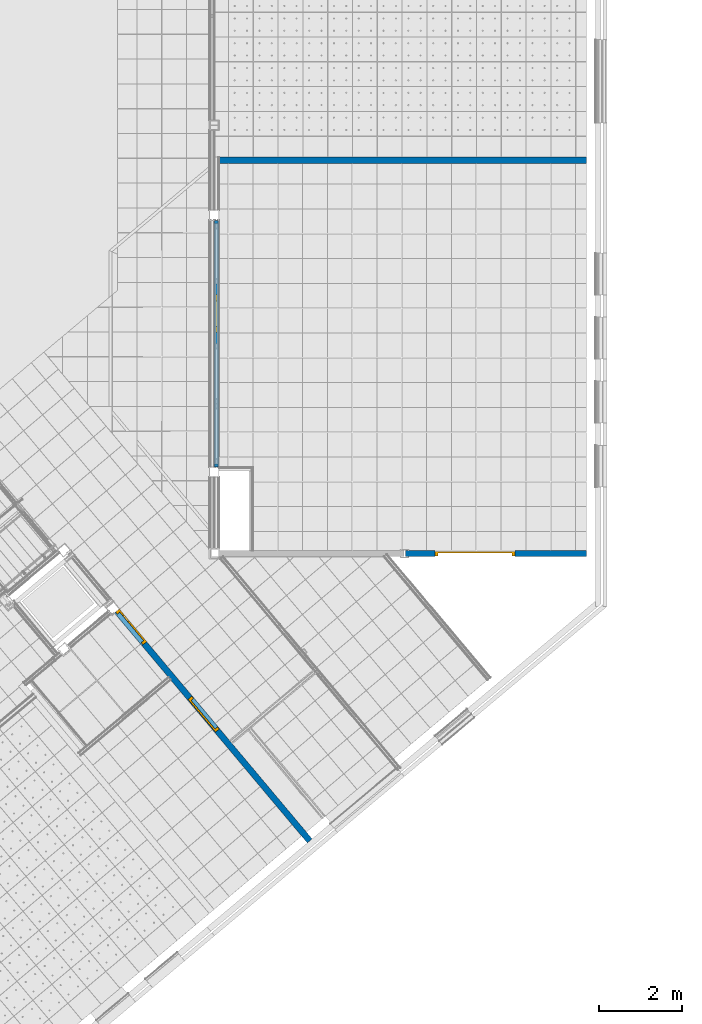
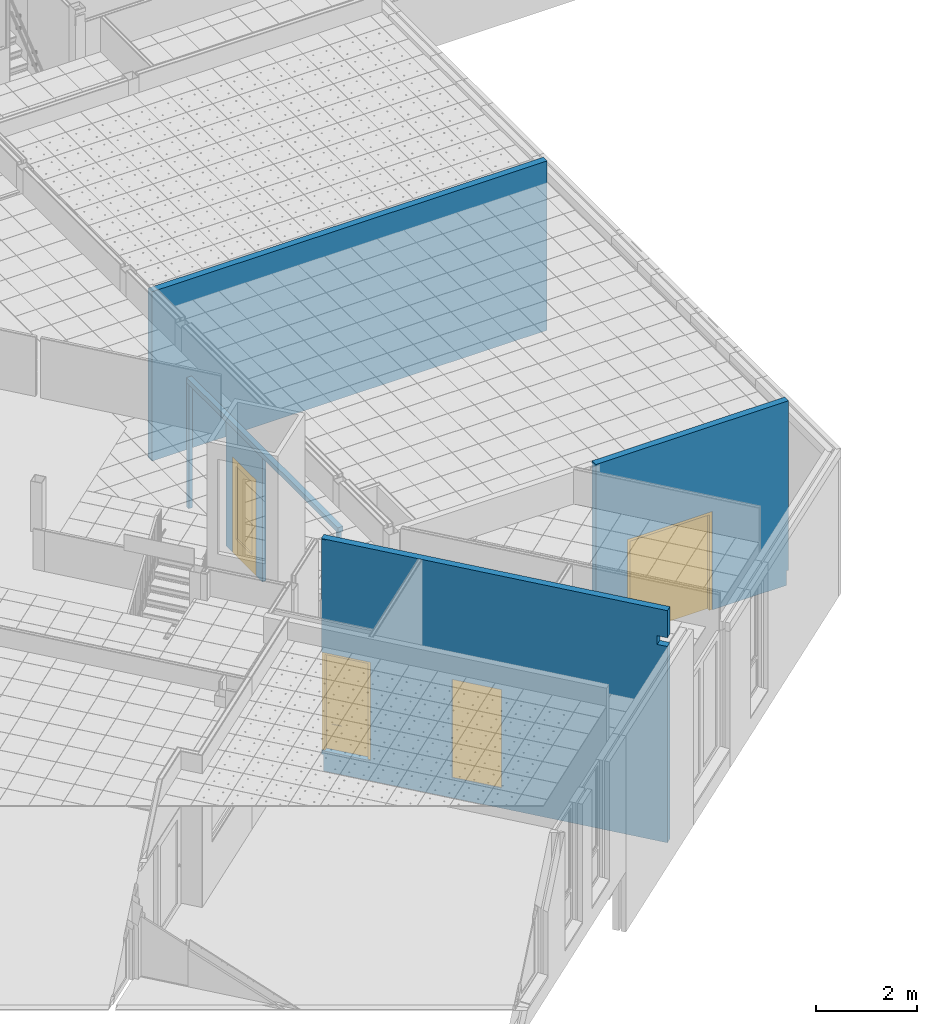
# One storey, part 43 of 338: 7 walls, 4 doors, 4 openings.
"""IFC2X3 building model written with IfcOpenShell, lengths in millimetres."""

from ifc_helpers import new_model, entity, si_unit, converted_unit, derived_unit, money_unit, direction, frame, origin_with_axes, place, context, subcontext, project, spatial, open_shell, faceted_brep, surface_model, material, type_object, element, fill, save


model = new_model("IFC2X3")

# Units and contexts
model_context = context("Model", 3, precision=0.01, world=origin_with_axes(), true_north=direction((0.0, 1.0)))
plan_context = context("Plan", 3, precision=0.01, world=origin_with_axes(), true_north=direction((0.0, 1.0)))
body_context = subcontext(model_context, "Body", "Model", "MODEL_VIEW")
ifc_project = project(units=[si_unit("LENGTHUNIT", "METRE", prefix="MILLI"), si_unit("AREAUNIT", "SQUARE_METRE"), si_unit("VOLUMEUNIT", "CUBIC_METRE"), converted_unit("PLANEANGLEUNIT", "DEGREE", entity("IfcPlaneAngleMeasure", 0.0174532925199), si_unit("PLANEANGLEUNIT", "RADIAN"), dimensions=[0, 0, 0, 0, 0, 0, 0]), money_unit("EUR"), converted_unit("TIMEUNIT", "Year", entity("IfcTimeMeasure", 31556926.0), si_unit("TIMEUNIT", "SECOND"), dimensions=[0, 0, 1, 0, 0, 0, 0]), si_unit("MASSUNIT", "GRAM", prefix="KILO"), si_unit("THERMODYNAMICTEMPERATUREUNIT", "DEGREE_CELSIUS"), si_unit("LUMINOUSINTENSITYUNIT", "LUMEN"), si_unit("ENERGYUNIT", "JOULE", prefix="MEGA"), derived_unit("THERMALCONDUCTANCEUNIT", [(si_unit("POWERUNIT", "WATT"), 1), (si_unit("LENGTHUNIT", "METRE"), -1), (si_unit("THERMODYNAMICTEMPERATUREUNIT", "KELVIN"), -1)]), derived_unit("SPECIFICHEATCAPACITYUNIT", [(si_unit("ENERGYUNIT", "JOULE"), 1), (si_unit("MASSUNIT", "GRAM", prefix="KILO"), -1), (si_unit("THERMODYNAMICTEMPERATUREUNIT", "KELVIN"), -1)]), derived_unit("MASSDENSITYUNIT", [(si_unit("MASSUNIT", "GRAM", prefix="KILO"), 1), (si_unit("VOLUMEUNIT", "CUBIC_METRE"), -1)])], contexts=[model_context, plan_context])

# Site, building, storey
site_placement = place(None, origin_with_axes())
site = spatial("IfcSite", under=ifc_project, at=site_placement, Name="Fortuinstraat Woensdrecht", CompositionType="ELEMENT")
building_placement = place(site_placement, origin_with_axes())
building = spatial("IfcBuilding", under=site, at=building_placement, Name="IKC Fortuna", CompositionType="ELEMENT")
storey_placement = place(building_placement, origin_with_axes())
storey = spatial("IfcBuildingStorey", under=building, at=storey_placement, Name="00 begane grond", CompositionType="ELEMENT", Elevation=0.0)

# Wall, openings, doors
ifc_material_1 = material(Name="Steen - Kalkzandsteen C")
wall_type_1 = type_object("IfcWallType", Name="Steen - Kalkzandsteen C 150", PredefinedType="NOTDEFINED")
wall_1_placement = place(storey_placement, frame((27979.6079647, -5147.2923168, -485.0), z_axis=(0.0, 0.0, 1.0), x_axis=(-0.642787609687, 0.766044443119, 0.0)))
wall_1 = element("IfcWall", 1, at=wall_1_placement, inside=storey, type_object=wall_type_1, material=ifc_material_1, Name="22_Wand_KZST", context=body_context, shape_type="Brep", body=[
    faceted_brep([(4512.49185749, 150.0, 2852.0), (4512.49185749, 0.0, 2852.0), (3478.49185749, 0.0, 2852.0), (3478.49185749, 150.0, 2852.0), (4512.49185749, 0.0, 485.0), (4512.49185749, 150.0, 485.0), (214.0, 0.0, 4722.5), (0.0, 0.0, 4722.5), (0.0, 0.0, 0.0), (7214.0, 0.0, 0.0), (7214.0, 0.0, 395.0), (7259.0, 0.0, 395.0), (7258.9999956, 0.000128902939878, 485.0), (6224.9999956, 0.0, 485.0), (6224.9999956, 0.0, 2852.0), (7258.9999956, 0.00351905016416, 2852.0), (7259.0, 0.00741120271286, 5569.5), (7164.0170648, 0.00741120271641, 5569.5), (7164.0170648, 0.00741120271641, 5584.5), (7259.0, 0.00741120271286, 5584.5), (7259.0, 0.0, 5585.0), (0.0, 0.0, 5585.0), (0.0, 0.0, 4932.5), (214.0, 0.0, 4932.5), (3478.49185749, 0.0, 485.0), (3478.49185749, 150.0, 485.0), (7259.0, 150.0, 5584.5), (7164.0170648, 150.0, 5584.5), (7164.0170648, 150.0, 5569.5), (7259.0, 150.0, 5569.5), (7258.9999956, 150.0, 2852.0), (6224.9999956, 150.0, 2852.0), (6224.9999956, 150.0, 485.0), (7258.9999956, 150.0, 485.0), (7259.0, 150.0, 395.0), (7214.0, 150.0, 395.0), (7214.0, 150.0, 0.0), (0.0, 150.0, 0.0), (0.0, 150.0, 4722.5), (214.0, 150.0, 4722.5), (214.0, 150.0, 4932.5), (0.0, 150.0, 4932.5), (0.0, 150.0, 5585.0), (7259.0, 150.0, 5585.0)], [[[0, 1, 2, 3]], [[4, 1, 0, 5]], [[6, 7, 8, 9, 10, 11, 12, 13, 14, 15, 16, 17, 18, 19, 20, 21, 22, 23], [4, 24, 2, 1]], [[3, 2, 24, 25]], [[26, 27, 28, 29, 30, 31, 32, 33, 34, 35, 36, 37, 38, 39, 40, 41, 42, 43], [0, 3, 25, 5]], [[24, 4, 5, 25]], [[38, 7, 6, 39]], [[7, 38, 37, 8]], [[9, 8, 37, 36]], [[9, 36, 35, 10]], [[10, 35, 34, 11]], [[11, 34, 33, 12]], [[33, 32, 13, 12]], [[32, 31, 14, 13]], [[31, 30, 15, 14]], [[29, 16, 15, 30]], [[29, 28, 17, 16]], [[28, 27, 18, 17]], [[27, 26, 19, 18]], [[43, 20, 19, 26]], [[42, 21, 20, 43]], [[41, 22, 21, 42]], [[23, 22, 41, 40]], [[6, 23, 40, 39]]]),
])
opening_1_placement = place(wall_1_placement, frame((6741.9999956, 0.0, 485.0), z_axis=(0.0, 0.0, 1.0), x_axis=(1.0, 0.0, 0.0)))
opening_1 = element("IfcOpeningElement", 2, at=opening_1_placement, cuts=wall_1, Name="32_Deur_h.01d", context=body_context, shape_type="Brep", body=[
    faceted_brep([(-517.0, 150.0, 2367.0), (-517.0, 150.0, 0.0), (-517.0, -300.0, 0.0), (-517.0, -300.0, 2367.0), (517.0, 150.0, 2367.0), (517.0, 150.0, 0.0), (517.0, -300.0, 0.0), (517.0, -300.0, 2367.0)], [[[0, 1, 2, 3]], [[0, 4, 5, 1]], [[1, 5, 6, 2]], [[3, 2, 6, 7]], [[4, 0, 3, 7]], [[5, 4, 7, 6]]]),
])
opening_2_placement = place(wall_1_placement, frame((3995.49185749, 0.0, 485.0), z_axis=(0.0, 0.0, 1.0), x_axis=(1.0, 0.0, 0.0)))
opening_2 = element("IfcOpeningElement", 3, at=opening_2_placement, cuts=wall_1, Name="32_Deur_h.01a", context=body_context, shape_type="Brep", body=[
    faceted_brep([(517.0, -150.0, 2367.0), (517.0, -150.0, 0.0), (517.0, 129.0, 0.0), (517.0, 129.0, 2367.0), (-517.0, -150.0, 2367.0), (-517.0, -150.0, 0.0), (-517.0, 129.0, 0.0), (-517.0, 129.0, 2367.0)], [[[0, 1, 2, 3]], [[0, 4, 5, 1]], [[1, 5, 6, 2]], [[3, 2, 6, 7]], [[4, 0, 3, 7]], [[5, 4, 7, 6]]]),
    faceted_brep([(517.0, 300.0, 0.0), (517.0, 300.0, 2367.0), (517.0, 129.0, 2367.0), (517.0, 129.0, 0.0), (-517.0, 300.0, 0.0), (-517.0, 300.0, 2367.0), (-517.0, 129.0, 2367.0), (-517.0, 129.0, 0.0)], [[[0, 1, 2, 3]], [[0, 4, 5, 1]], [[1, 5, 6, 2]], [[3, 2, 6, 7]], [[4, 0, 3, 7]], [[5, 4, 7, 6]]]),
])
door_style_1 = type_object("IfcDoorStyle", Name="D1 25", ConstructionType="NOTDEFINED", OperationType="SINGLE_SWING_RIGHT", ParameterTakesPrecedence=False, Sizeable=False)
door_1_placement = place(opening_1_placement, frame((517.0, 0.0, 0.0), z_axis=(0.0, 0.0, 1.0), x_axis=(-1.0, 0.0, 0.0)))
door_1 = element("IfcDoor", 4, at=door_1_placement, inside=storey, type_object=door_style_1, Name="32_Deur_h.01d", ObjectType="DOOR", OverallHeight=2367.0, OverallWidth=1034.0, context=body_context, shape_type="SurfaceModel", body=[
    faceted_brep([(67.0, -40.0, 0.0), (67.0, -40.0, 2300.0), (67.0, -114.0, 2300.0), (67.0, -114.0, 0.0), (50.0, -40.0, 2300.0), (50.0, -40.0, 0.0), (50.0, 0.0, 2300.0), (0.0, 0.0, 2300.0), (0.0, -114.0, 2300.0), (0.0, -114.0, 0.0), (0.0, 0.0, 0.0), (50.0, 0.0, 0.0)], [[[0, 1, 2, 3]], [[4, 1, 0, 5]], [[4, 6, 7, 8, 2, 1]], [[3, 2, 8, 9]], [[5, 0, 3, 9, 10, 11]], [[6, 4, 5, 11]], [[6, 11, 10, 7]], [[10, 9, 8, 7]]]),
    faceted_brep([(984.0, -40.0, 2300.0), (967.0, -40.0, 2300.0), (967.0, -114.0, 2300.0), (1034.0, -114.0, 2300.0), (1034.0, 0.0, 2300.0), (984.0, 0.0, 2300.0), (984.0, -40.0, 0.0), (967.0, -40.0, 0.0), (967.0, -114.0, 0.0), (1034.0, -114.0, 0.0), (1034.0, 0.0, 0.0), (984.0, 0.0, 0.0)], [[[0, 1, 2, 3, 4, 5]], [[1, 0, 6, 7]], [[1, 7, 8, 2]], [[3, 2, 8, 9]], [[4, 3, 9, 10]], [[11, 5, 4, 10]], [[0, 5, 11, 6]], [[6, 11, 10, 9, 8, 7]]]),
    faceted_brep([(50.0, 0.0, 2317.0), (50.0, 0.0, 2300.0), (0.0, 0.0, 2300.0), (0.0, 0.0, 2367.0), (1034.0, 0.0, 2367.0), (1034.0, 0.0, 2300.0), (984.0, 0.0, 2300.0), (984.0, 0.0, 2317.0), (50.0, -40.0, 2317.0), (50.0, -40.0, 2300.0), (67.0, -40.0, 2300.0), (67.0, -114.0, 2300.0), (0.0, -114.0, 2300.0), (0.0, -114.0, 2367.0), (1034.0, -114.0, 2367.0), (1034.0, -114.0, 2300.0), (984.0, -40.0, 2300.0), (967.0, -114.0, 2300.0), (967.0, -40.0, 2300.0), (984.0, -40.0, 2317.0)], [[[0, 1, 2, 3, 4, 5, 6, 7]], [[1, 0, 8, 9]], [[9, 10, 11, 12, 2, 1]], [[2, 12, 13, 3]], [[3, 13, 14, 4]], [[4, 14, 15, 5]], [[16, 6, 5, 15, 17, 18]], [[7, 6, 16, 19]], [[0, 7, 19, 8]], [[16, 18, 10, 9, 8, 19]], [[10, 18, 17, 11]], [[17, 15, 14, 13, 12, 11]]]),
    faceted_brep([(984.0, 0.0, 600.0), (984.0, -40.0, 600.0), (380.0, -40.0, 600.0), (380.0, 0.0, 600.0), (984.0, 0.0, 2187.0), (984.0, -40.0, 2187.0), (380.0, -40.0, 2187.0), (380.0, 0.0, 2187.0)], [[[0, 1, 2, 3]], [[4, 5, 1, 0]], [[1, 5, 6, 2]], [[3, 2, 6, 7]], [[0, 3, 7, 4]], [[7, 6, 5, 4]]]),
    faceted_brep([(50.0, 0.0, 600.0), (50.0, -40.0, 600.0), (50.0, -40.0, 2187.0), (50.0, 0.0, 2187.0), (180.0, 0.0, 600.0), (180.0, -40.0, 600.0), (180.0, -40.0, 2187.0), (180.0, 0.0, 2187.0)], [[[0, 1, 2, 3]], [[4, 5, 1, 0]], [[1, 5, 6, 2]], [[3, 2, 6, 7]], [[0, 3, 7, 4]], [[7, 6, 5, 4]]]),
    faceted_brep([(984.0, 0.0, 0.0), (984.0, -40.0, 0.0), (50.0, -40.0, 0.0), (50.0, 0.0, 0.0), (984.0, 0.0, 600.0), (984.0, -40.0, 600.0), (380.0, -40.0, 600.0), (180.0, -40.0, 600.0), (50.0, -40.0, 600.0), (50.0, 0.0, 600.0), (180.0, 0.0, 600.0), (380.0, 0.0, 600.0)], [[[0, 1, 2, 3]], [[4, 5, 1, 0]], [[1, 5, 6, 7, 8, 2]], [[3, 2, 8, 9]], [[0, 3, 9, 10, 11, 4]], [[11, 6, 5, 4]], [[10, 7, 6, 11]], [[9, 8, 7, 10]]]),
    faceted_brep([(984.0, 0.0, 2317.0), (984.0, -40.0, 2317.0), (984.0, -40.0, 2187.0), (984.0, 0.0, 2187.0), (50.0, 0.0, 2317.0), (50.0, -40.0, 2317.0), (50.0, -40.0, 2187.0), (180.0, -40.0, 2187.0), (380.0, -40.0, 2187.0), (380.0, 0.0, 2187.0), (180.0, 0.0, 2187.0), (50.0, 0.0, 2187.0)], [[[0, 1, 2, 3]], [[4, 5, 1, 0]], [[1, 5, 6, 7, 8, 2]], [[3, 2, 8, 9]], [[0, 3, 9, 10, 11, 4]], [[11, 6, 5, 4]], [[10, 7, 6, 11]], [[9, 8, 7, 10]]]),
    surface_model("IfcShellBasedSurfaceModel", [(380.0, -14.0, 600.0), (180.0, -14.0, 600.0), (180.0, -14.0, 2187.0), (380.0, -14.0, 2187.0)], [open_shell([[[0, 1, 2, 3]]])]),
    surface_model("IfcShellBasedSurfaceModel", [(380.0, -26.0, 600.0), (380.0, -26.0, 2187.0), (180.0, -26.0, 2187.0), (180.0, -26.0, 600.0)], [open_shell([[[0, 1, 2, 3]]])]),
])
fill(opening_1, door_1)
door_style_2 = type_object("IfcDoorStyle", Name="D1 25", ConstructionType="NOTDEFINED", OperationType="SINGLE_SWING_RIGHT", ParameterTakesPrecedence=False, Sizeable=False)
door_2_placement = place(opening_2_placement, frame((-517.0, 0.0, 0.0), z_axis=(0.0, 0.0, 1.0), x_axis=(1.0, 0.0, 0.0)))
door_2 = element("IfcDoor", 5, at=door_2_placement, inside=storey, type_object=door_style_2, Name="32_Deur_h.01a", ObjectType="DOOR", OverallHeight=2367.0, OverallWidth=1034.0, context=body_context, shape_type="Brep", body=[
    faceted_brep([(67.0, 89.0, 0.0), (67.0, 89.0, 2300.0), (67.0, 15.0, 2300.0), (67.0, 15.0, 0.0), (50.0, 89.0, 2300.0), (50.0, 89.0, 0.0), (50.0, 129.0, 2300.0), (0.0, 129.0, 2300.0), (0.0, 15.0, 2300.0), (0.0, 15.0, 0.0), (0.0, 129.0, 0.0), (50.0, 129.0, 0.0)], [[[0, 1, 2, 3]], [[4, 1, 0, 5]], [[4, 6, 7, 8, 2, 1]], [[3, 2, 8, 9]], [[5, 0, 3, 9, 10, 11]], [[6, 4, 5, 11]], [[6, 11, 10, 7]], [[10, 9, 8, 7]]]),
    faceted_brep([(984.0, 89.0, 2300.0), (967.0, 89.0, 2300.0), (967.0, 15.0, 2300.0), (1034.0, 15.0, 2300.0), (1034.0, 129.0, 2300.0), (984.0, 129.0, 2300.0), (984.0, 89.0, 0.0), (967.0, 89.0, 0.0), (967.0, 15.0, 0.0), (1034.0, 15.0, 0.0), (1034.0, 129.0, 0.0), (984.0, 129.0, 0.0)], [[[0, 1, 2, 3, 4, 5]], [[1, 0, 6, 7]], [[1, 7, 8, 2]], [[3, 2, 8, 9]], [[4, 3, 9, 10]], [[11, 5, 4, 10]], [[0, 5, 11, 6]], [[6, 11, 10, 9, 8, 7]]]),
    faceted_brep([(50.0, 129.0, 2317.0), (50.0, 129.0, 2300.0), (0.0, 129.0, 2300.0), (0.0, 129.0, 2367.0), (1034.0, 129.0, 2367.0), (1034.0, 129.0, 2300.0), (984.0, 129.0, 2300.0), (984.0, 129.0, 2317.0), (50.0, 89.0, 2317.0), (50.0, 89.0, 2300.0), (67.0, 89.0, 2300.0), (67.0, 15.0, 2300.0), (0.0, 15.0, 2300.0), (0.0, 15.0, 2367.0), (1034.0, 15.0, 2367.0), (1034.0, 15.0, 2300.0), (984.0, 89.0, 2300.0), (967.0, 15.0, 2300.0), (967.0, 89.0, 2300.0), (984.0, 89.0, 2317.0)], [[[0, 1, 2, 3, 4, 5, 6, 7]], [[1, 0, 8, 9]], [[9, 10, 11, 12, 2, 1]], [[2, 12, 13, 3]], [[3, 13, 14, 4]], [[4, 14, 15, 5]], [[16, 6, 5, 15, 17, 18]], [[7, 6, 16, 19]], [[0, 7, 19, 8]], [[16, 18, 10, 9, 8, 19]], [[10, 18, 17, 11]], [[17, 15, 14, 13, 12, 11]]]),
    faceted_brep([(984.0, 129.0, 0.0), (984.0, 89.0, 0.0), (50.0, 89.0, 0.0), (50.0, 129.0, 0.0), (984.0, 129.0, 2317.0), (984.0, 89.0, 2317.0), (50.0, 89.0, 2317.0), (50.0, 129.0, 2317.0)], [[[0, 1, 2, 3]], [[4, 5, 1, 0]], [[1, 5, 6, 2]], [[3, 2, 6, 7]], [[0, 3, 7, 4]], [[7, 6, 5, 4]]]),
])
fill(opening_2, door_2)

# Wall, opening, door
wall_2_placement = place(storey_placement, frame((34619.4270571, 1827.29662827, -835.0), z_axis=(0.0, 0.0, 1.0), x_axis=(-1.0, 0.0, 0.0)))
wall_2 = element("IfcWall", 6, at=wall_2_placement, inside=storey, type_object=wall_type_1, material=ifc_material_1, Name="22_Wand_KZST", context=body_context, shape_type="Brep", body=[
    faceted_brep([(1731.73240392, 23.0, 90.0), (1731.73240392, 150.0, 90.0), (1731.73240392, 150.0, 2367.0), (1731.73240392, 0.0, 2367.0), (1731.73240392, 0.0, 90.0), (1731.73240392, 0.0, 0.0), (1731.73240392, 150.0, 0.0), (51.0, 150.0, 0.0), (51.0, 150.0, 350.0), (0.0, 150.0, 350.0), (0.0, 150.0, 4424.9999996), (4385.99208057, 150.0, 4424.9999996), (4385.99208057, 150.0, 0.0), (3665.73240392, 150.0, 0.0), (3665.73240392, 150.0, 90.0), (3665.73240392, 150.0, 2367.0), (3665.73240392, 0.0, 2367.0), (3665.73240392, 0.0, 90.0), (3665.73240392, 0.0, 0.0), (4385.99208057, 0.0, 0.0), (4385.99208057, 0.0, 4424.9999996), (0.0, 0.0, 4424.9999996), (0.0, 0.0, 350.0), (51.0, 0.0, 350.0), (51.0, 0.0, 0.0), (3665.73240392, 23.0, 90.0)], [[[0, 1, 2, 3, 4]], [[1, 0, 4, 5, 6]], [[2, 1, 6, 7, 8, 9, 10, 11, 12, 13, 14, 15]], [[3, 2, 15, 16]], [[5, 4, 3, 16, 17, 18, 19, 20, 21, 22, 23, 24]], [[7, 6, 5, 24]], [[23, 8, 7, 24]], [[22, 9, 8, 23]], [[22, 21, 10, 9]], [[21, 20, 11, 10]], [[11, 20, 19, 12]], [[18, 13, 12, 19]], [[25, 14, 13, 18, 17]], [[15, 14, 25, 17, 16]]]),
])
opening_3_placement = place(wall_2_placement, frame((2698.73240392, 0.0, 0.0), z_axis=(0.0, 0.0, 1.0), x_axis=(1.0, 0.0, 0.0)))
opening_3 = element("IfcOpeningElement", 7, at=opening_3_placement, cuts=wall_2, Name="32_Deur_h.12", context=body_context, shape_type="Brep", body=[
    faceted_brep([(-967.0, 300.0, 2367.0), (-967.0, 300.0, 0.0), (-967.0, 23.0, 0.0), (-967.0, 23.0, 2367.0), (967.0, 300.0, 2367.0), (967.0, 300.0, 0.0), (967.0, 23.0, 0.0), (967.0, 23.0, 2367.0)], [[[0, 1, 2, 3]], [[0, 4, 5, 1]], [[1, 5, 6, 2]], [[3, 2, 6, 7]], [[4, 0, 3, 7]], [[5, 4, 7, 6]]]),
    faceted_brep([(-967.0, -150.0, 0.0), (-967.0, -150.0, 2367.0), (-967.0, 23.0, 2367.0), (-967.0, 23.0, 0.0), (967.0, -150.0, 0.0), (967.0, -150.0, 2367.0), (967.0, 23.0, 2367.0), (967.0, 23.0, 0.0)], [[[0, 1, 2, 3]], [[0, 4, 5, 1]], [[1, 5, 6, 2]], [[3, 2, 6, 7]], [[4, 0, 3, 7]], [[5, 4, 7, 6]]]),
])
door_style_3 = type_object("IfcDoorStyle", Name="D2 25", ConstructionType="NOTDEFINED", OperationType="DOUBLE_DOOR_SINGLE_SWING", ParameterTakesPrecedence=False, Sizeable=False)
door_3_placement = place(opening_3_placement, frame((967.0, 0.0, 0.0), z_axis=(0.0, 0.0, 1.0), x_axis=(-1.0, 0.0, 0.0)))
door_3 = element("IfcDoor", 8, at=door_3_placement, inside=storey, type_object=door_style_3, Name="32_Deur_h.12", ObjectType="DOOR", OverallHeight=2367.0, OverallWidth=1934.0, context=body_context, shape_type="Brep", body=[
    faceted_brep([(67.0, -63.0, 0.0), (67.0, -63.0, 2300.0), (67.0, -137.0, 2300.0), (67.0, -137.0, 0.0), (50.0, -63.0, 2300.0), (50.0, -63.0, 0.0), (50.0, -23.0, 2300.0), (0.0, -23.0, 2300.0), (0.0, -137.0, 2300.0), (0.0, -137.0, 0.0), (0.0, -23.0, 0.0), (50.0, -23.0, 0.0)], [[[0, 1, 2, 3]], [[4, 1, 0, 5]], [[4, 6, 7, 8, 2, 1]], [[3, 2, 8, 9]], [[5, 0, 3, 9, 10, 11]], [[6, 4, 5, 11]], [[6, 11, 10, 7]], [[10, 9, 8, 7]]]),
    faceted_brep([(1884.0, -63.0, 2300.0), (1867.0, -63.0, 2300.0), (1867.0, -137.0, 2300.0), (1934.0, -137.0, 2300.0), (1934.0, -23.0, 2300.0), (1884.0, -23.0, 2300.0), (1884.0, -63.0, 0.0), (1867.0, -63.0, 0.0), (1867.0, -137.0, 0.0), (1934.0, -137.0, 0.0), (1934.0, -23.0, 0.0), (1884.0, -23.0, 0.0)], [[[0, 1, 2, 3, 4, 5]], [[1, 0, 6, 7]], [[1, 7, 8, 2]], [[3, 2, 8, 9]], [[4, 3, 9, 10]], [[11, 5, 4, 10]], [[0, 5, 11, 6]], [[6, 11, 10, 9, 8, 7]]]),
    faceted_brep([(50.0, -23.0, 2317.0), (50.0, -23.0, 2300.0), (0.0, -23.0, 2300.0), (0.0, -23.0, 2367.0), (1934.0, -23.0, 2367.0), (1934.0, -23.0, 2300.0), (1884.0, -23.0, 2300.0), (1884.0, -23.0, 2317.0), (50.0, -63.0, 2317.0), (50.0, -63.0, 2300.0), (67.0, -63.0, 2300.0), (67.0, -137.0, 2300.0), (0.0, -137.0, 2300.0), (0.0, -137.0, 2367.0), (1934.0, -137.0, 2367.0), (1934.0, -137.0, 2300.0), (1884.0, -63.0, 2300.0), (1867.0, -137.0, 2300.0), (1867.0, -63.0, 2300.0), (1884.0, -63.0, 2317.0)], [[[0, 1, 2, 3, 4, 5, 6, 7]], [[1, 0, 8, 9]], [[9, 10, 11, 12, 2, 1]], [[2, 12, 13, 3]], [[3, 13, 14, 4]], [[4, 14, 15, 5]], [[16, 6, 5, 15, 17, 18]], [[7, 6, 16, 19]], [[0, 7, 19, 8]], [[16, 18, 10, 9, 8, 19]], [[10, 18, 17, 11]], [[17, 15, 14, 13, 12, 11]]]),
    faceted_brep([(1884.0, -23.0, 0.0), (1884.0, -63.0, 0.0), (967.0, -63.0, 0.0), (967.0, -23.0, 0.0), (1884.0, -23.0, 2317.0), (1884.0, -63.0, 2317.0), (967.0, -63.0, 2317.0), (967.0, -23.0, 2317.0)], [[[0, 1, 2, 3]], [[4, 5, 1, 0]], [[1, 5, 6, 2]], [[3, 2, 6, 7]], [[0, 3, 7, 4]], [[7, 6, 5, 4]]]),
    faceted_brep([(50.0, -23.0, 0.0), (967.0, -23.0, 0.0), (967.0, -63.0, 0.0), (50.0, -63.0, 0.0), (50.0, -23.0, 2317.0), (967.0, -23.0, 2317.0), (967.0, -63.0, 2317.0), (50.0, -63.0, 2317.0)], [[[0, 1, 2, 3]], [[0, 4, 5, 1]], [[1, 5, 6, 2]], [[3, 2, 6, 7]], [[4, 0, 3, 7]], [[5, 4, 7, 6]]]),
])
fill(opening_3, door_3)

# Walls
wall_3_placement = place(storey_placement, frame((34619.4270571, 11342.2966283, -484.999999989), z_axis=(0.0, 0.0, 1.0), x_axis=(-1.0, 0.0, 0.0)))
element("IfcWall", 9, at=wall_3_placement, inside=storey, type_object=wall_type_1, material=ifc_material_1, Name="22_Wand_KZST", context=body_context, shape_type="Brep", body=[
    faceted_brep([(5499.9920806, 0.0, 394.999999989), (5799.9920806, 0.0, 394.999999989), (5799.9920806, 0.0, -1.08189013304e-08), (8996.3920806, 0.0, 0.0), (8996.3920806, 0.0, 4074.99997461), (0.0, 0.0, 4074.99997461), (0.0, 0.0, 0.0), (5499.9920806, 0.0, -1.08189013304e-08), (5799.9920806, 5.00000344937, 394.999999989), (5499.9920806, 5.00000344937, 394.999999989), (5799.9920806, 5.00000344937, -1.08189013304e-08), (5499.9920806, 5.00000344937, -1.08189013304e-08), (0.0, 150.0, 0.0), (8996.3920806, 150.0, 0.0), (8996.3920806, 150.0, 4074.99997461), (0.0, 150.0, 4074.99997461)], [[[0, 1, 2, 3, 4, 5, 6, 7]], [[8, 1, 0, 9]], [[10, 2, 1, 8]], [[10, 11, 7, 6, 12, 13, 3, 2]], [[13, 14, 4, 3]], [[15, 5, 4, 14]], [[12, 6, 5, 15]], [[9, 0, 7, 11]], [[9, 11, 10, 8]], [[12, 15, 14, 13]]]),
])
ifc_material_2 = material(Name="ALG - BINNENAFWERKING")
wall_type_2 = type_object("IfcWallType", Name="ALG - BINNENAFWERKING 80", PredefinedType="USERDEFINED")
for number, where, z_axis, x_axis, name in (
    (10, (25620.4349347, 3924.79662827, -745.0), (0.0, 0.0, 1.0), (0.0, -1.0, 0.0), "22_Schuifwand_panelenwand"),
    (11, (25620.4349347, 9814.79662827, -745.0), (0.0, 0.0, 1.0), (0.0, -1.0, 0.0), "22_Schuifwand_panelenwand"),
):
    element("IfcWall", number, at=place(storey_placement, frame(where, z_axis=z_axis, x_axis=x_axis)), inside=storey, type_object=wall_type_2, material=ifc_material_2, Name=name, ObjectType="MOVABLE", context=body_context, shape_type="Brep", body=[
        faceted_brep([(0.0, 0.0, 0.0), (0.0, 80.0, 0.0), (80.0, 80.0, 0.0), (80.0, 0.0, 0.0), (0.0, 0.0, 2992.0), (0.0, 80.0, 2992.0), (80.0, 80.0, 2992.0), (80.0, 0.0, 2992.0)], [[[0, 1, 2, 3]], [[4, 5, 1, 0]], [[1, 5, 6, 2]], [[7, 3, 2, 6]], [[4, 0, 3, 7]], [[5, 4, 7, 6]]]),
    ])

# Wall, opening, door
wall_4_placement = place(storey_placement, frame((25620.4349347, 8274.79662827, -745.0), z_axis=(0.0, 0.0, 1.0), x_axis=(0.0, -1.0, 0.0)))
wall_4 = element("IfcWall", 12, at=wall_4_placement, inside=storey, type_object=wall_type_2, material=ifc_material_2, Name="22_Schuifwand_panelenwand", ObjectType="MOVABLE", context=body_context, shape_type="Brep", body=[
    faceted_brep([(1180.0, 80.0, 0.0), (1180.0, 80.0, 2300.0), (260.0, 80.0, 2300.0), (260.0, 80.0, 0.0), (0.0, 80.0, 0.0), (0.0, 80.0, 2992.0), (1440.0, 80.0, 2992.0), (1440.0, 80.0, 0.0), (1180.0, 0.0, 0.0), (1180.0, 0.0, 2300.0), (260.0, 0.0, 2300.0), (260.0, 0.0, 0.0), (0.0, 0.0, 0.0), (0.0, 0.0, 2992.0), (1440.0, 0.0, 2992.0), (1440.0, 0.0, 0.0)], [[[0, 1, 2, 3, 4, 5, 6, 7]], [[1, 0, 8, 9]], [[2, 1, 9, 10]], [[3, 2, 10, 11]], [[3, 11, 12, 4]], [[4, 12, 13, 5]], [[14, 6, 5, 13]], [[7, 6, 14, 15]], [[8, 0, 7, 15]], [[9, 8, 15, 14, 13, 12, 11, 10]]]),
])
opening_4_placement = place(wall_4_placement, frame((720.0, 0.0, 0.0), z_axis=(0.0, 0.0, 1.0), x_axis=(1.0, 0.0, 0.0)))
opening_4 = element("IfcOpeningElement", 13, at=opening_4_placement, cuts=wall_4, Name="32_Deur_P.01", context=body_context, shape_type="Brep", body=[
    faceted_brep([(-460.0, -80.0, 0.0), (-460.0, -80.0, 2300.0), (-460.0, 160.0, 2300.0), (-460.0, 160.0, 0.0), (460.0, -80.0, 0.0), (460.0, -80.0, 2300.0), (460.0, 160.0, 2300.0), (460.0, 160.0, 0.0)], [[[0, 1, 2, 3]], [[0, 4, 5, 1]], [[1, 5, 6, 2]], [[3, 2, 6, 7]], [[4, 0, 3, 7]], [[5, 4, 7, 6]]]),
])
door_style_4 = type_object("IfcDoorStyle", Name="D1 25", ConstructionType="NOTDEFINED", OperationType="SINGLE_SWING_RIGHT", ParameterTakesPrecedence=False, Sizeable=False)
door_4_placement = place(opening_4_placement, frame((460.0, 0.0, 0.0), z_axis=(0.0, 0.0, 1.0), x_axis=(-1.0, 0.0, 0.0)))
door_4 = element("IfcDoor", 14, at=door_4_placement, inside=storey, type_object=door_style_4, Name="32_Deur_P.01", ObjectType="DOOR", OverallHeight=2300.0, OverallWidth=920.0, context=body_context, shape_type="SurfaceModel", body=[
    faceted_brep([(920.0, 0.0, 400.0), (920.0, -80.0, 400.0), (770.0, -80.0, 400.0), (770.0, 0.0, 400.0), (920.0, 0.0, 2150.0), (920.0, -80.0, 2150.0), (770.0, -80.0, 2150.0), (770.0, 0.0, 2150.0)], [[[0, 1, 2, 3]], [[4, 5, 1, 0]], [[1, 5, 6, 2]], [[3, 2, 6, 7]], [[0, 3, 7, 4]], [[7, 6, 5, 4]]]),
    faceted_brep([(0.0, 0.0, 400.0), (0.0, -80.0, 400.0), (0.0, -80.0, 2150.0), (0.0, 0.0, 2150.0), (150.0, 0.0, 400.0), (150.0, -80.0, 400.0), (150.0, -80.0, 2150.0), (150.0, 0.0, 2150.0)], [[[0, 1, 2, 3]], [[4, 5, 1, 0]], [[1, 5, 6, 2]], [[3, 2, 6, 7]], [[0, 3, 7, 4]], [[7, 6, 5, 4]]]),
    faceted_brep([(920.0, 0.0, 0.0), (920.0, -80.0, 0.0), (0.0, -80.0, 0.0), (0.0, 0.0, 0.0), (920.0, 0.0, 400.0), (920.0, -80.0, 400.0), (770.0, -80.0, 400.0), (150.0, -80.0, 400.0), (0.0, -80.0, 400.0), (0.0, 0.0, 400.0), (150.0, 0.0, 400.0), (770.0, 0.0, 400.0)], [[[0, 1, 2, 3]], [[4, 5, 1, 0]], [[1, 5, 6, 7, 8, 2]], [[3, 2, 8, 9]], [[0, 3, 9, 10, 11, 4]], [[11, 6, 5, 4]], [[10, 7, 6, 11]], [[9, 8, 7, 10]]]),
    faceted_brep([(920.0, 0.0, 2300.0), (920.0, -80.0, 2300.0), (920.0, -80.0, 2150.0), (920.0, 0.0, 2150.0), (0.0, 0.0, 2300.0), (0.0, -80.0, 2300.0), (0.0, -80.0, 2150.0), (150.0, -80.0, 2150.0), (770.0, -80.0, 2150.0), (770.0, 0.0, 2150.0), (150.0, 0.0, 2150.0), (0.0, 0.0, 2150.0)], [[[0, 1, 2, 3]], [[4, 5, 1, 0]], [[1, 5, 6, 7, 8, 2]], [[3, 2, 8, 9]], [[0, 3, 9, 10, 11, 4]], [[11, 6, 5, 4]], [[10, 7, 6, 11]], [[9, 8, 7, 10]]]),
    surface_model("IfcShellBasedSurfaceModel", [(770.0, -34.0, 400.0), (150.0, -34.0, 400.0), (150.0, -34.0, 2150.0), (770.0, -34.0, 2150.0)], [open_shell([[[0, 1, 2, 3]]])]),
    surface_model("IfcShellBasedSurfaceModel", [(770.0, -46.0, 400.0), (770.0, -46.0, 2150.0), (150.0, -46.0, 2150.0), (150.0, -46.0, 400.0)], [open_shell([[[0, 1, 2, 3]]])]),
])
fill(opening_4, door_4)

# Wall
wall_type_3 = type_object("IfcWallType", Name="ALG - BINNENAFWERKING 120 x 120", PredefinedType="USERDEFINED")
wall_5_placement = place(storey_placement, frame((25672.9349582, 9814.79662827, 2307.0), z_axis=(0.0, 0.0, 1.0), x_axis=(-1.0, 0.0, 0.0)))
element("IfcWall", 15, at=wall_5_placement, inside=storey, type_object=wall_type_3, material=ifc_material_2, Name="22_Schuifwand_rail panelenwand", ObjectType="MOVABLE", context=body_context, shape_type="Brep", body=[
    faceted_brep([(-60.0, 0.0, -60.0), (-60.0, 5970.0, -60.0), (60.0, 5970.0, -60.0), (60.0, 0.0, -60.0), (-60.0, 0.0, 60.0), (-60.0, 5970.0, 60.0), (60.0, 5970.0, 60.0), (60.0, 0.0, 60.0)], [[[0, 1, 2, 3]], [[4, 5, 1, 0]], [[2, 1, 5, 6]], [[3, 2, 6, 7]], [[4, 0, 3, 7]], [[7, 6, 5, 4]]]),
])

save(model, "model.ifc")
